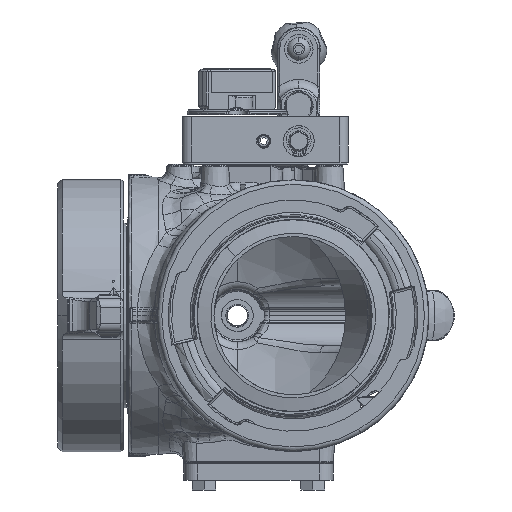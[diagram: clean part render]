
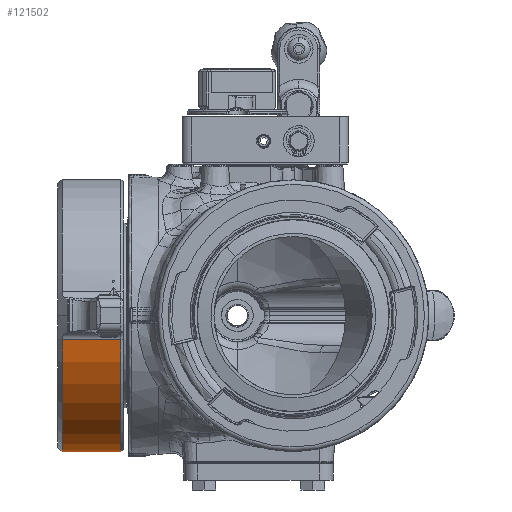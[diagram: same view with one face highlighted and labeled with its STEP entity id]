
A CAD part, front view. The second image highlights one B-rep face of the part: STEP entity #121502.
In plain terms, the highlighted cylindrical face has radius 98.425 mm (diameter 196.85 mm), a partial arc.
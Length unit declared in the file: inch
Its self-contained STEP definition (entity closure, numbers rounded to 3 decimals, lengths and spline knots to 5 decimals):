
#1074 = VERTEX_POINT ( 'NONE', #81053 ) ;
#8852 = ORIENTED_EDGE ( 'NONE', *, *, #124254, .T. ) ;
#10992 = EDGE_CURVE ( 'NONE', #128556, #26298, #107343, .T. ) ;
#13847 = DIRECTION ( 'NONE',  ( 1., 0., 0. ) ) ;
#26298 = VERTEX_POINT ( 'NONE', #54052 ) ;
#34911 = LINE ( 'NONE', #118114, #196669 ) ;
#54052 = CARTESIAN_POINT ( 'NONE',  ( -4.983, -3.81468, -0.68106 ) ) ;
#66306 = CARTESIAN_POINT ( 'NONE',  ( -5.158, 3.81468, -0.68106 ) ) ;
#77401 = AXIS2_PLACEMENT_3D ( 'NONE', #217294, #199548, #130679 ) ;
#81053 = CARTESIAN_POINT ( 'NONE',  ( -3.3075, 3.81468, -0.68106 ) ) ;
#81087 = CARTESIAN_POINT ( 'NONE',  ( -3.3075, 0., 0. ) ) ;
#105406 = ORIENTED_EDGE ( 'NONE', *, *, #10992, .F. ) ;
#106676 = LINE ( 'NONE', #66306, #199569 ) ;
#106903 = DIRECTION ( 'NONE',  ( 1., 0., 0. ) ) ;
#107343 = CIRCLE ( 'NONE', #140560, 3.875 ) ;
#113650 = CARTESIAN_POINT ( 'NONE',  ( -4.983, 3.81468, -0.68106 ) ) ;
#114811 = CARTESIAN_POINT ( 'NONE',  ( -3.3075, -3.81468, -0.68106 ) ) ;
#115871 = DIRECTION ( 'NONE',  ( 0., -1., 0. ) ) ;
#116345 = DIRECTION ( 'NONE',  ( -1., 0., 0. ) ) ;
#117676 = ORIENTED_EDGE ( 'NONE', *, *, #190475, .F. ) ;
#118114 = CARTESIAN_POINT ( 'NONE',  ( -5.158, -3.81468, -0.68106 ) ) ;
#121502 = ADVANCED_FACE ( 'NONE', ( #145392 ), #163926, .T. ) ;
#124254 = EDGE_CURVE ( 'NONE', #1074, #155861, #168597, .T. ) ;
#128556 = VERTEX_POINT ( 'NONE', #113650 ) ;
#130679 = DIRECTION ( 'NONE',  ( 0., 1., 0. ) ) ;
#140560 = AXIS2_PLACEMENT_3D ( 'NONE', #217115, #116345, #150413 ) ;
#145392 = FACE_OUTER_BOUND ( 'NONE', #166845, .T. ) ;
#150413 = DIRECTION ( 'NONE',  ( 0., 1., 0. ) ) ;
#155861 = VERTEX_POINT ( 'NONE', #114811 ) ;
#163926 = CYLINDRICAL_SURFACE ( 'NONE', #77401, 3.875 ) ;
#166845 = EDGE_LOOP ( 'NONE', ( #216756, #8852, #117676, #105406 ) ) ;
#167689 = DIRECTION ( 'NONE',  ( -1., 0., 0. ) ) ;
#168597 = CIRCLE ( 'NONE', #215293, 3.875 ) ;
#190475 = EDGE_CURVE ( 'NONE', #26298, #155861, #34911, .T. ) ;
#196669 = VECTOR ( 'NONE', #106903, 39.37008 ) ;
#197434 = EDGE_CURVE ( 'NONE', #128556, #1074, #106676, .T. ) ;
#199548 = DIRECTION ( 'NONE',  ( 1., 0., 0. ) ) ;
#199569 = VECTOR ( 'NONE', #13847, 39.37008 ) ;
#215293 = AXIS2_PLACEMENT_3D ( 'NONE', #81087, #167689, #115871 ) ;
#216756 = ORIENTED_EDGE ( 'NONE', *, *, #197434, .T. ) ;
#217115 = CARTESIAN_POINT ( 'NONE',  ( -4.983, 0., 0. ) ) ;
#217294 = CARTESIAN_POINT ( 'NONE',  ( -5.158, 0., 0. ) ) ;
